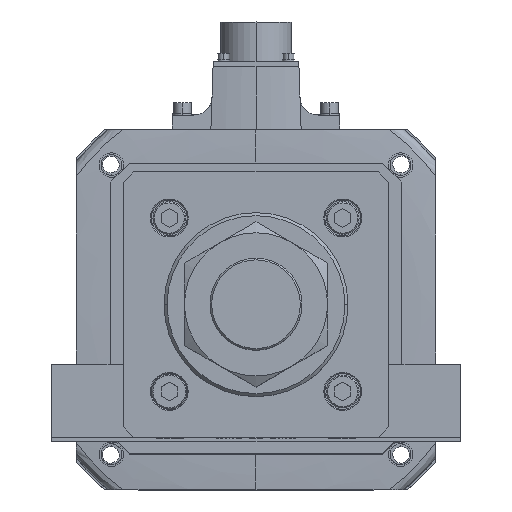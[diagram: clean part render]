
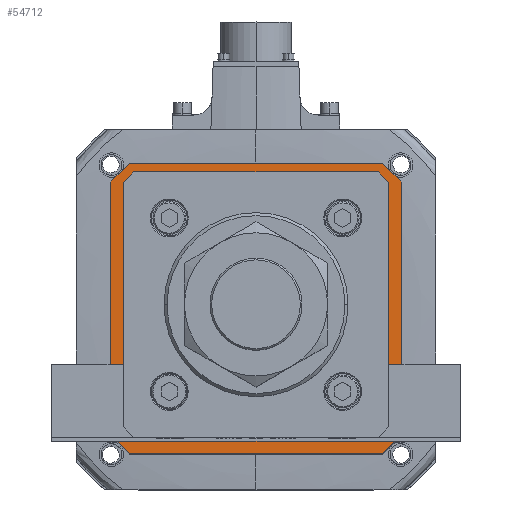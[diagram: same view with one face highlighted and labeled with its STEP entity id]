
A CAD part, top view. The second image highlights one B-rep face of the part: STEP entity #54712.
In plain terms, the highlighted planar face has unit normal (0, 0, 1).
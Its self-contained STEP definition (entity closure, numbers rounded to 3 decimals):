
#105 = VERTEX_POINT ( 'NONE', #44324 ) ;
#156 = VERTEX_POINT ( 'NONE', #41522 ) ;
#332 = DIRECTION ( 'NONE',  ( -0.707, 0.707, 0. ) ) ;
#1403 = VERTEX_POINT ( 'NONE', #33328 ) ;
#1742 = CARTESIAN_POINT ( 'NONE',  ( -58.793, 63., -142. ) ) ;
#3179 = CARTESIAN_POINT ( 'NONE',  ( -63., -58.793, -142. ) ) ;
#3517 = ORIENTED_EDGE ( 'NONE', *, *, #42304, .F. ) ;
#3612 = CARTESIAN_POINT ( 'NONE',  ( 71., 62., -142. ) ) ;
#4113 = CARTESIAN_POINT ( 'NONE',  ( 62., -71., -142. ) ) ;
#4117 = DIRECTION ( 'NONE',  ( 0., 1., 0. ) ) ;
#4782 = LINE ( 'NONE', #6285, #42896 ) ;
#4820 = VERTEX_POINT ( 'NONE', #14645 ) ;
#5367 = ORIENTED_EDGE ( 'NONE', *, *, #53902, .F. ) ;
#6285 = CARTESIAN_POINT ( 'NONE',  ( -62., -71., -142. ) ) ;
#7121 = VECTOR ( 'NONE', #11395, 1000. ) ;
#7405 = VECTOR ( 'NONE', #39380, 1000. ) ;
#7749 = ORIENTED_EDGE ( 'NONE', *, *, #11277, .F. ) ;
#7843 = ORIENTED_EDGE ( 'NONE', *, *, #10591, .F. ) ;
#8070 = EDGE_LOOP ( 'NONE', ( #34755, #31185, #41507, #48938, #47540, #10844, #35100, #32264 ) ) ;
#9096 = VECTOR ( 'NONE', #4117, 1000. ) ;
#9504 = CARTESIAN_POINT ( 'NONE',  ( 62., 71., -142. ) ) ;
#10295 = EDGE_CURVE ( 'NONE', #30554, #1403, #35184, .T. ) ;
#10591 = EDGE_CURVE ( 'NONE', #34394, #105, #39789, .T. ) ;
#10844 = ORIENTED_EDGE ( 'NONE', *, *, #16094, .T. ) ;
#10909 = VECTOR ( 'NONE', #26438, 1000. ) ;
#10912 = LINE ( 'NONE', #25567, #21628 ) ;
#11277 = EDGE_CURVE ( 'NONE', #105, #50902, #54462, .T. ) ;
#11395 = DIRECTION ( 'NONE',  ( 0., -1., 0. ) ) ;
#11595 = LINE ( 'NONE', #16781, #16929 ) ;
#11963 = CARTESIAN_POINT ( 'NONE',  ( 60.896, -60.896, -142. ) ) ;
#12268 = CARTESIAN_POINT ( 'NONE',  ( 71., 62., -142. ) ) ;
#13022 = FACE_BOUND ( 'NONE', #8070, .T. ) ;
#13361 = CARTESIAN_POINT ( 'NONE',  ( -63., 0., -142. ) ) ;
#14193 = LINE ( 'NONE', #13361, #10909 ) ;
#14645 = CARTESIAN_POINT ( 'NONE',  ( -63., 58.793, -142. ) ) ;
#15128 = EDGE_CURVE ( 'NONE', #50902, #31305, #48763, .T. ) ;
#15162 = DIRECTION ( 'NONE',  ( 1., 0., 0. ) ) ;
#15666 = VERTEX_POINT ( 'NONE', #35933 ) ;
#15754 = ORIENTED_EDGE ( 'NONE', *, *, #39978, .F. ) ;
#16094 = EDGE_CURVE ( 'NONE', #4820, #30554, #11595, .T. ) ;
#16450 = VECTOR ( 'NONE', #47616, 1000. ) ;
#16539 = CARTESIAN_POINT ( 'NONE',  ( -60.896, -60.896, -142. ) ) ;
#16702 = EDGE_CURVE ( 'NONE', #53937, #4820, #14193, .T. ) ;
#16781 = CARTESIAN_POINT ( 'NONE',  ( -60.896, 60.896, -142. ) ) ;
#16929 = VECTOR ( 'NONE', #42773, 1000. ) ;
#18103 = VECTOR ( 'NONE', #20849, 1000. ) ;
#18424 = LINE ( 'NONE', #24287, #7121 ) ;
#19603 = CARTESIAN_POINT ( 'NONE',  ( 71., -62., -142. ) ) ;
#20790 = DIRECTION ( 'NONE',  ( 0.707, -0.707, 0. ) ) ;
#20849 = DIRECTION ( 'NONE',  ( -1., 0., 0. ) ) ;
#21628 = VECTOR ( 'NONE', #51679, 1000. ) ;
#21732 = LINE ( 'NONE', #32688, #41767 ) ;
#23618 = PLANE ( 'NONE',  #31829 ) ;
#24287 = CARTESIAN_POINT ( 'NONE',  ( 71., 62., -142. ) ) ;
#25567 = CARTESIAN_POINT ( 'NONE',  ( 71., -62., -142. ) ) ;
#26438 = DIRECTION ( 'NONE',  ( 0., 1., 0. ) ) ;
#27063 = VECTOR ( 'NONE', #20790, 1000. ) ;
#27733 = VECTOR ( 'NONE', #51449, 1000. ) ;
#28747 = VECTOR ( 'NONE', #332, 1000. ) ;
#28989 = DIRECTION ( 'NONE',  ( -0.707, -0.707, 0. ) ) ;
#29075 = LINE ( 'NONE', #3612, #27063 ) ;
#29485 = LINE ( 'NONE', #34289, #18103 ) ;
#29646 = VECTOR ( 'NONE', #40220, 1000. ) ;
#29935 = VERTEX_POINT ( 'NONE', #35766 ) ;
#30201 = CARTESIAN_POINT ( 'NONE',  ( -62., 71., -142. ) ) ;
#30257 = VERTEX_POINT ( 'NONE', #30313 ) ;
#30313 = CARTESIAN_POINT ( 'NONE',  ( 63., -58.793, -142. ) ) ;
#30554 = VERTEX_POINT ( 'NONE', #1742 ) ;
#31185 = ORIENTED_EDGE ( 'NONE', *, *, #45999, .T. ) ;
#31305 = VERTEX_POINT ( 'NONE', #51072 ) ;
#31616 = CARTESIAN_POINT ( 'NONE',  ( 60.896, 60.896, -142. ) ) ;
#31829 = AXIS2_PLACEMENT_3D ( 'NONE', #32563, #49508, #15162 ) ;
#32264 = ORIENTED_EDGE ( 'NONE', *, *, #41263, .T. ) ;
#32446 = CARTESIAN_POINT ( 'NONE',  ( -71., -62., -142. ) ) ;
#32555 = LINE ( 'NONE', #11963, #48508 ) ;
#32563 = CARTESIAN_POINT ( 'NONE',  ( 0., 0., -142. ) ) ;
#32688 = CARTESIAN_POINT ( 'NONE',  ( 63., 0., -142. ) ) ;
#33084 = CARTESIAN_POINT ( 'NONE',  ( -71., 62., -142. ) ) ;
#33328 = CARTESIAN_POINT ( 'NONE',  ( 58.793, 63., -142. ) ) ;
#33574 = CARTESIAN_POINT ( 'NONE',  ( -62., 71., -142. ) ) ;
#34289 = CARTESIAN_POINT ( 'NONE',  ( 0., -63., -142. ) ) ;
#34394 = VERTEX_POINT ( 'NONE', #32446 ) ;
#34567 = CARTESIAN_POINT ( 'NONE',  ( 62., -71., -142. ) ) ;
#34605 = EDGE_LOOP ( 'NONE', ( #42950, #7749, #7843, #3517, #15754, #35018, #5367, #44137 ) ) ;
#34755 = ORIENTED_EDGE ( 'NONE', *, *, #48393, .T. ) ;
#35018 = ORIENTED_EDGE ( 'NONE', *, *, #37373, .F. ) ;
#35100 = ORIENTED_EDGE ( 'NONE', *, *, #10295, .T. ) ;
#35184 = LINE ( 'NONE', #35321, #16450 ) ;
#35321 = CARTESIAN_POINT ( 'NONE',  ( 0., 63., -142. ) ) ;
#35766 = CARTESIAN_POINT ( 'NONE',  ( -62., -71., -142. ) ) ;
#35933 = CARTESIAN_POINT ( 'NONE',  ( 63., 58.793, -142. ) ) ;
#37373 = EDGE_CURVE ( 'NONE', #47299, #52051, #10912, .T. ) ;
#39108 = VERTEX_POINT ( 'NONE', #12268 ) ;
#39214 = EDGE_CURVE ( 'NONE', #156, #53937, #45439, .T. ) ;
#39380 = DIRECTION ( 'NONE',  ( 1., 0., 0. ) ) ;
#39789 = LINE ( 'NONE', #33084, #9096 ) ;
#39978 = EDGE_CURVE ( 'NONE', #52051, #29935, #51052, .T. ) ;
#40220 = DIRECTION ( 'NONE',  ( 0.707, -0.707, 0. ) ) ;
#40439 = DIRECTION ( 'NONE',  ( -0.707, 0.707, 0. ) ) ;
#41023 = LINE ( 'NONE', #31616, #29646 ) ;
#41263 = EDGE_CURVE ( 'NONE', #1403, #15666, #41023, .T. ) ;
#41507 = ORIENTED_EDGE ( 'NONE', *, *, #50573, .T. ) ;
#41522 = CARTESIAN_POINT ( 'NONE',  ( -58.793, -63., -142. ) ) ;
#41767 = VECTOR ( 'NONE', #46652, 1000. ) ;
#42304 = EDGE_CURVE ( 'NONE', #29935, #34394, #4782, .T. ) ;
#42773 = DIRECTION ( 'NONE',  ( 0.707, 0.707, 0. ) ) ;
#42896 = VECTOR ( 'NONE', #40439, 1000. ) ;
#42950 = ORIENTED_EDGE ( 'NONE', *, *, #15128, .F. ) ;
#44137 = ORIENTED_EDGE ( 'NONE', *, *, #48147, .F. ) ;
#44324 = CARTESIAN_POINT ( 'NONE',  ( -71., 62., -142. ) ) ;
#45439 = LINE ( 'NONE', #16539, #28747 ) ;
#45466 = VERTEX_POINT ( 'NONE', #52068 ) ;
#45999 = EDGE_CURVE ( 'NONE', #30257, #45466, #32555, .T. ) ;
#46389 = VECTOR ( 'NONE', #50770, 1000. ) ;
#46652 = DIRECTION ( 'NONE',  ( 0., -1., 0. ) ) ;
#47299 = VERTEX_POINT ( 'NONE', #19603 ) ;
#47540 = ORIENTED_EDGE ( 'NONE', *, *, #16702, .T. ) ;
#47616 = DIRECTION ( 'NONE',  ( 1., 0., 0. ) ) ;
#48147 = EDGE_CURVE ( 'NONE', #31305, #39108, #29075, .T. ) ;
#48393 = EDGE_CURVE ( 'NONE', #15666, #30257, #21732, .T. ) ;
#48508 = VECTOR ( 'NONE', #28989, 1000. ) ;
#48763 = LINE ( 'NONE', #9504, #7405 ) ;
#48938 = ORIENTED_EDGE ( 'NONE', *, *, #39214, .T. ) ;
#49508 = DIRECTION ( 'NONE',  ( 0., 0., 1. ) ) ;
#50573 = EDGE_CURVE ( 'NONE', #45466, #156, #29485, .T. ) ;
#50770 = DIRECTION ( 'NONE',  ( -1., 0., 0. ) ) ;
#50902 = VERTEX_POINT ( 'NONE', #33574 ) ;
#51052 = LINE ( 'NONE', #4113, #46389 ) ;
#51072 = CARTESIAN_POINT ( 'NONE',  ( 62., 71., -142. ) ) ;
#51449 = DIRECTION ( 'NONE',  ( 0.707, 0.707, 0. ) ) ;
#51679 = DIRECTION ( 'NONE',  ( -0.707, -0.707, 0. ) ) ;
#52051 = VERTEX_POINT ( 'NONE', #34567 ) ;
#52068 = CARTESIAN_POINT ( 'NONE',  ( 58.793, -63., -142. ) ) ;
#53902 = EDGE_CURVE ( 'NONE', #39108, #47299, #18424, .T. ) ;
#53937 = VERTEX_POINT ( 'NONE', #3179 ) ;
#54462 = LINE ( 'NONE', #30201, #27733 ) ;
#54712 = ADVANCED_FACE ( 'NONE', ( #13022, #55084 ), #23618, .T. ) ;
#55084 = FACE_OUTER_BOUND ( 'NONE', #34605, .T. ) ;
